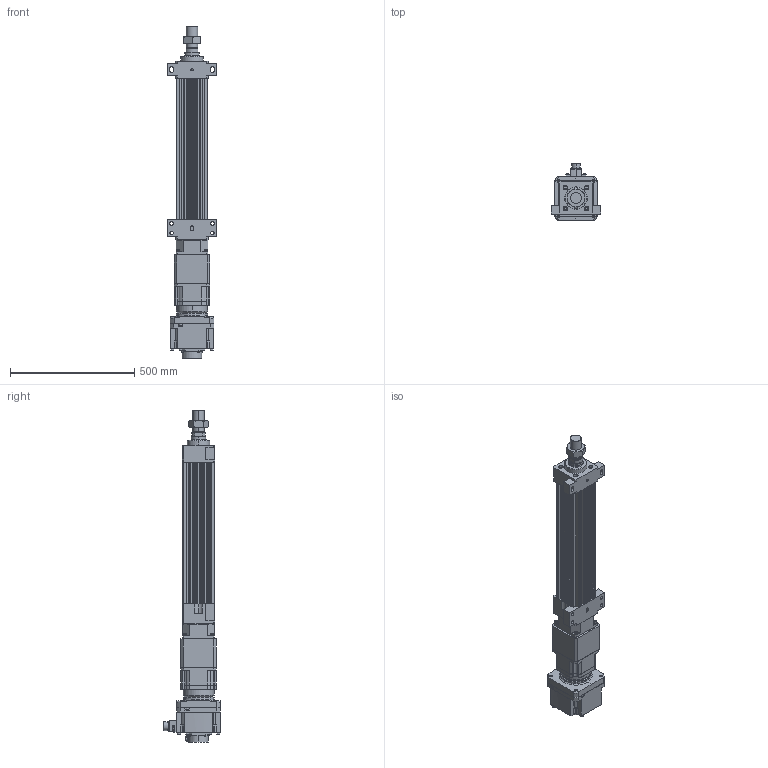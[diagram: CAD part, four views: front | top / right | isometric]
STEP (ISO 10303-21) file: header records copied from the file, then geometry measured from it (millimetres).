
FILE_DESCRIPTION (( 'STEP AP203' ), '1' );
FILE_NAME ('HES130FS(HS)-S350-W020G00-M-FFB.STEP', '2023-01-30T12:32:58', ( 'tms' ), ( '' ), 'SwSTEP 2.0', 'SolidWorks 2013', '' );
FILE_SCHEMA (( 'CONFIG_CONTROL_DESIGN' ));
Length unit declared in the file: millimetre
Products named in the file (9): HG-SR202; M45X1.5P; AB1421; HES130 ROD M ST350; P0403500801; HES130-S350-G142-FFB; P1301500001; AB142-003[HG-SR352]; HES130FS(HS)-S350-W020G00-M-FFB
Assembly tree (8 placements, depth 3):
  HES130FS(HS)-S350-W020G00-M-FFB
    HES130-S350-G142-FFB
    HES130 ROD M ST350
    M45X1.5P
    AB142-003[HG-SR352]
      AB1421
      P1301500001
      P0403500801
    HG-SR202
Bounding box: 200 x 228.85 x 1337.5 mm (x, y, z)
Volume: 12014920.3 mm3; surface area: 1529761.4 mm2
Topology: 4 solids, 22 shells, 1518 faces, 3922 edges, 2545 vertices
Faces by surface type: cylinder 676, plane 600, cone 160, bspline 76, torus 6
Entity records: 55270 total; most frequent: CARTESIAN_POINT 16778, DIRECTION 8032, ORIENTED_EDGE 7750, EDGE_CURVE 3897, AXIS2_PLACEMENT_3D 3016, VERTEX_POINT 2545, VECTOR 2000, LINE 2000
